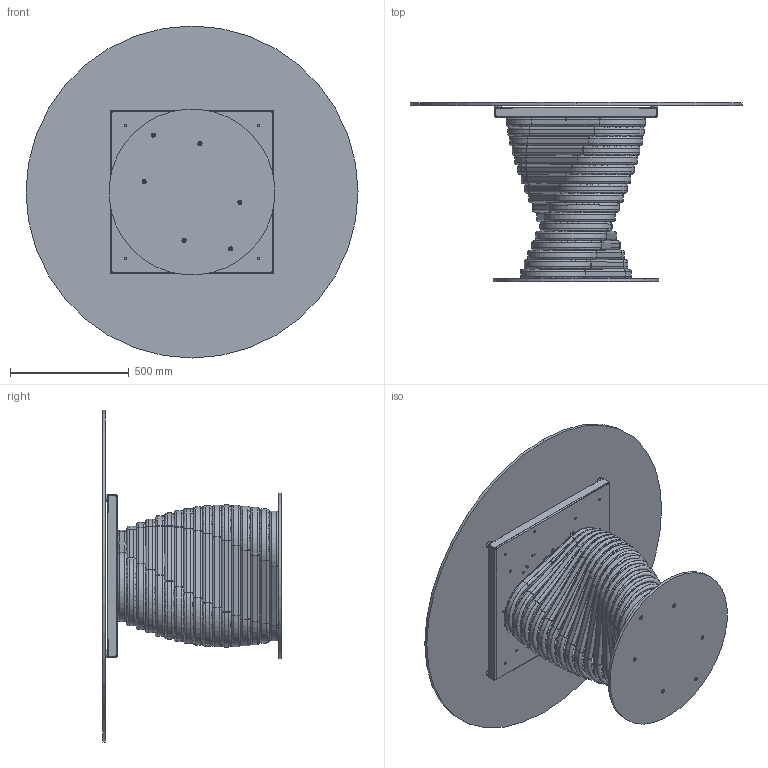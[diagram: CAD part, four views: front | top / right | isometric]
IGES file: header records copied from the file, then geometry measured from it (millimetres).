
Start section: SolidWorks IGES file using analytic representation for surfaces
Global section: file name: Y:\eforma\TECNICO\SOLIDWORKS\E-FORMA\1-TAVOLI\ROTOLO\02 parts\RO06G.IGS; native system: SolidWorks 2022; preprocessor: SolidWorks 2022; author: eforma.tech; date: 240807.150714; units: millimetre
Bounding box: 1400 x 754 x 1400 mm (x, y, z)
Volume: 30299527.7 mm3; surface area: 10016790.8 mm2
Topology: 97 solids, 97 shells, 1632 faces, 4000 edges, 2542 vertices
Faces by surface type: revolution 938, plane 694
